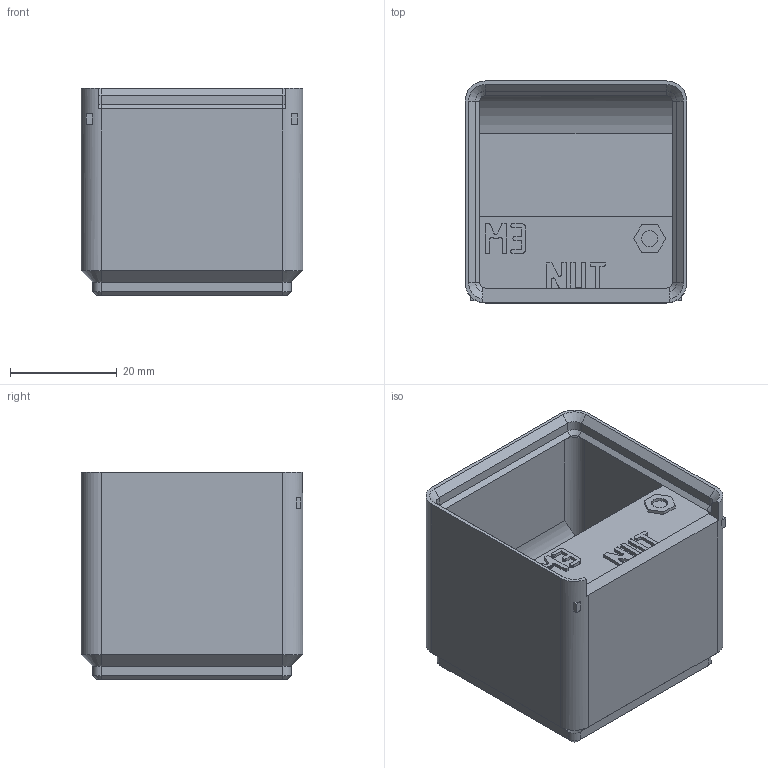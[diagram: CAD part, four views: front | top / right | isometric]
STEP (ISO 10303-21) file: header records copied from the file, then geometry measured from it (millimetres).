
FILE_DESCRIPTION(('Open CASCADE Model'),'2;1');
FILE_NAME('Open CASCADE Shape Model','2026-11-03T10:35:22',('Author'),( 'Open CASCADE'),'Open CASCADE STEP processor 8.0','build123d', 'Unknown');
FILE_SCHEMA(('AUTOMOTIVE_DESIGN { 1 0 10303 214 1 1 1 1 }'));
Length unit declared in the file: millimetre
Products named in the file (1): COMPOUND
Bounding box: 41.5 x 41.5 x 38.9 mm (x, y, z)
Volume: 15897 mm3; surface area: 15315.4 mm2
Topology: 1 solids, 1 shells, 551 faces, 1584 edges, 1040 vertices
Faces by surface type: plane 513, cone 20, cylinder 18
Full cylindrical faces by diameter (mm): 3 x1
Entity records: 37359 total; most frequent: CARTESIAN_POINT 8012, DIRECTION 4637, LINE 3402, VECTOR 3402, ORIENTED_EDGE 3168, PCURVE 3168, DEFINITIONAL_REPRESENTATION 3168, EDGE_CURVE 1584
